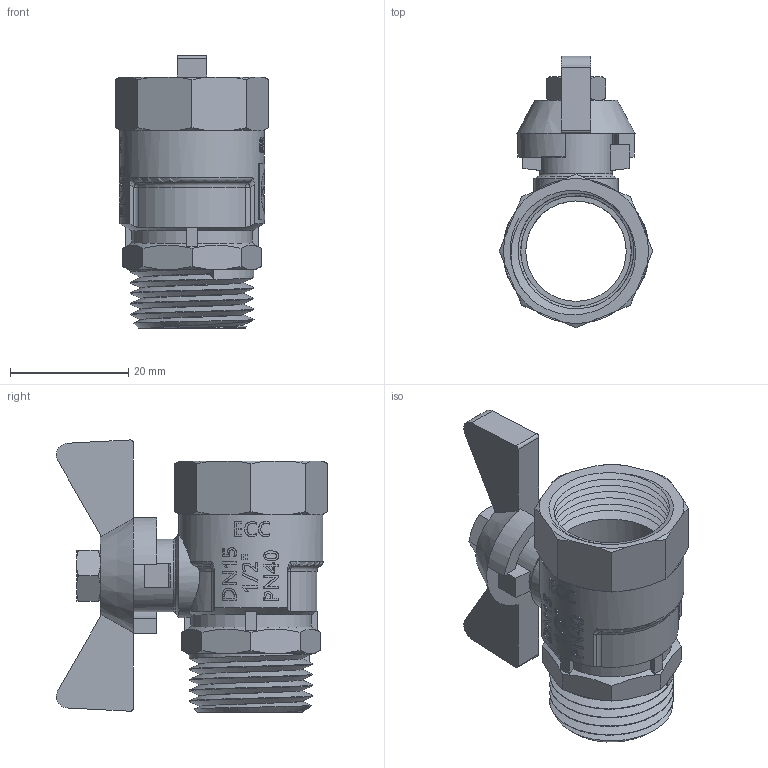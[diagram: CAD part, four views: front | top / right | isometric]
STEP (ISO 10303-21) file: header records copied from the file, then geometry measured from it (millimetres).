
FILE_DESCRIPTION(/* description */ (''),/* implementation_level */ '2;1');
FILE_NAME(/* name */ 'H:\Мишенин_3D\Исходные файлы 3D\VT.093.N.04.stp',/* time_stamp */ '2018-01-17T13:35:11+03:00',/* author */ ('MisheninAL'),/* organization */ (''),/* preprocessor_version */ 'ST-DEVELOPER v16.13',/* originating_system */ 'Autodesk Inventor 2018',/* authorisation */ '');
FILE_SCHEMA (('AUTOMOTIVE_DESIGN { 1 0 10303 214 3 1 1 }'));
Length unit declared in the file: millimetre
Products named in the file (1): VT.090_ВB_1%2
Bounding box: 25.98 x 45.96 x 46.08 mm (x, y, z)
Volume: 10404.9 mm3; surface area: 9695.1 mm2
Topology: 1 solids, 1 shells, 422 faces, 1126 edges, 738 vertices
Faces by surface type: plane 189, bspline 115, cylinder 57, cone 50, torus 7, sphere 4
Full cylindrical faces by diameter (mm): 12.276 x1, 14.276 x1, 17 x1, 18.7 x1, 24.5 x1
Entity records: 20033 total; most frequent: CARTESIAN_POINT 10397, ORIENTED_EDGE 2226, DIRECTION 1656, EDGE_CURVE 1113, VERTEX_POINT 733, AXIS2_PLACEMENT_3D 571, LINE 514, VECTOR 514
